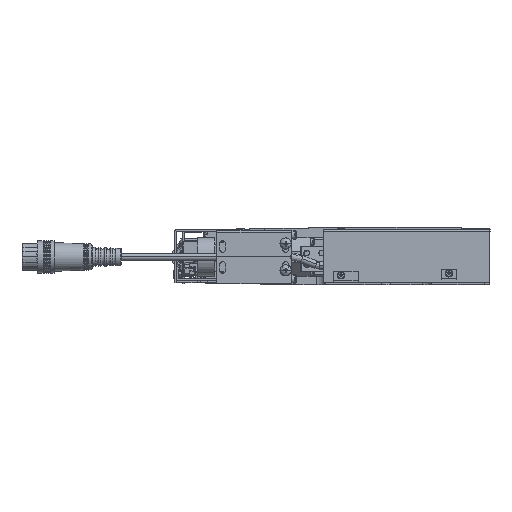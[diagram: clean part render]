
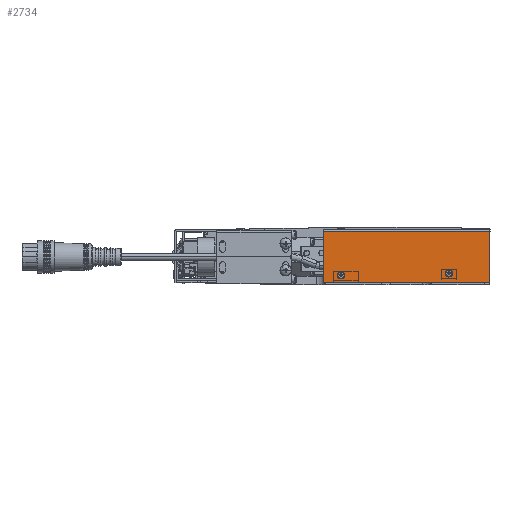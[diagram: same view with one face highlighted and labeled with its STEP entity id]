
A CAD part, front view. The second image highlights one B-rep face of the part: STEP entity #2734.
In plain terms, the highlighted planar face has unit normal (0, -1, 0).
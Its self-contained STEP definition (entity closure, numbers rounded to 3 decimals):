
#2734=ADVANCED_FACE('',(#27980,#27981,#27982),#27979,.F.);
#27979=PLANE('',#47865);
#27980=FACE_OUTER_BOUND('',#47866,.T.);
#27981=FACE_BOUND('',#47867,.T.);
#27982=FACE_BOUND('',#47868,.T.);
#47862=CARTESIAN_POINT('',(-40.7,-110.,10.2));
#47863=DIRECTION('',(0.,1.,0.));
#47864=DIRECTION('',(1.,0.,0.));
#47865=AXIS2_PLACEMENT_3D('',#47862,#47863,#47864);
#47866=EDGE_LOOP('',(#64419,#64420,#64421,#64422));
#47867=EDGE_LOOP('',(#64423,#64424));
#47868=EDGE_LOOP('',(#64425,#64426));
#64419=ORIENTED_EDGE('',*,*,#73685,.F.);
#64420=ORIENTED_EDGE('',*,*,#73632,.T.);
#64421=ORIENTED_EDGE('',*,*,#71806,.F.);
#64422=ORIENTED_EDGE('',*,*,#73702,.F.);
#64423=ORIENTED_EDGE('',*,*,#73704,.T.);
#64424=ORIENTED_EDGE('',*,*,#73705,.T.);
#64425=ORIENTED_EDGE('',*,*,#73706,.T.);
#64426=ORIENTED_EDGE('',*,*,#73707,.T.);
#71806=EDGE_CURVE('',#105857,#105864,#105865,.T.);
#73632=EDGE_CURVE('',#118082,#105864,#118083,.T.);
#73685=EDGE_CURVE('',#118082,#118437,#118438,.T.);
#73702=EDGE_CURVE('',#118437,#105857,#118548,.T.);
#73704=EDGE_CURVE('',#118560,#118561,#118562,.T.);
#73705=EDGE_CURVE('',#118561,#118560,#118568,.T.);
#73706=EDGE_CURVE('',#118574,#118575,#118576,.T.);
#73707=EDGE_CURVE('',#118575,#118574,#118582,.T.);
#105857=VERTEX_POINT('',#143967);
#105864=VERTEX_POINT('',#143971);
#105865=LINE('',#143972,#143973);
#118082=VERTEX_POINT('',#151193);
#118083=LINE('',#151194,#151195);
#118437=VERTEX_POINT('',#151425);
#118438=LINE('',#151426,#151427);
#118548=LINE('',#151487,#151488);
#118560=VERTEX_POINT('',#151493);
#118561=VERTEX_POINT('',#151494);
#118562=CIRCLE('',#151498,2.);
#118568=CIRCLE('',#151502,2.);
#118574=VERTEX_POINT('',#151503);
#118575=VERTEX_POINT('',#151504);
#118576=CIRCLE('',#151508,2.);
#118582=CIRCLE('',#151512,2.);
#143967=CARTESIAN_POINT('',(-32.,-110.,-19.5));
#143971=CARTESIAN_POINT('',(-32.,-110.,7.5));
#143972=CARTESIAN_POINT('',(-32.,-110.,-19.5));
#143973=VECTOR('',#143974,27.);
#143974=DIRECTION('',(0.,0.,1.));
#151193=CARTESIAN_POINT('',(55.,-110.,7.5));
#151194=CARTESIAN_POINT('',(55.,-110.,7.5));
#151195=VECTOR('',#151196,87.);
#151196=DIRECTION('',(-1.,0.,0.));
#151425=CARTESIAN_POINT('',(55.,-110.,-19.5));
#151426=CARTESIAN_POINT('',(55.,-110.,7.5));
#151427=VECTOR('',#151428,27.);
#151428=DIRECTION('',(0.,0.,-1.));
#151487=CARTESIAN_POINT('',(55.,-110.,-19.5));
#151488=VECTOR('',#151489,87.);
#151489=DIRECTION('',(-1.,0.,0.));
#151493=CARTESIAN_POINT('',(33.5,-110.,-16.5));
#151494=CARTESIAN_POINT('',(33.5,-110.,-12.5));
#151495=CARTESIAN_POINT('',(33.5,-110.,-14.5));
#151496=DIRECTION('',(0.,1.,0.));
#151497=DIRECTION('',(0.,0.,-1.));
#151498=AXIS2_PLACEMENT_3D('',#151495,#151496,#151497);
#151499=CARTESIAN_POINT('',(33.5,-110.,-14.5));
#151500=DIRECTION('',(0.,1.,0.));
#151501=DIRECTION('',(0.,0.,-1.));
#151502=AXIS2_PLACEMENT_3D('',#151499,#151500,#151501);
#151503=CARTESIAN_POINT('',(-23.,-110.,-17.5));
#151504=CARTESIAN_POINT('',(-23.,-110.,-13.5));
#151505=CARTESIAN_POINT('',(-23.,-110.,-15.5));
#151506=DIRECTION('',(0.,1.,0.));
#151507=DIRECTION('',(0.,0.,-1.));
#151508=AXIS2_PLACEMENT_3D('',#151505,#151506,#151507);
#151509=CARTESIAN_POINT('',(-23.,-110.,-15.5));
#151510=DIRECTION('',(0.,1.,0.));
#151511=DIRECTION('',(0.,0.,-1.));
#151512=AXIS2_PLACEMENT_3D('',#151509,#151510,#151511);
